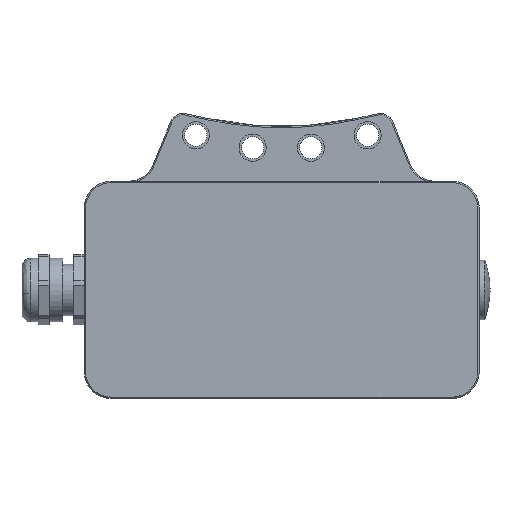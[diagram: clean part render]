
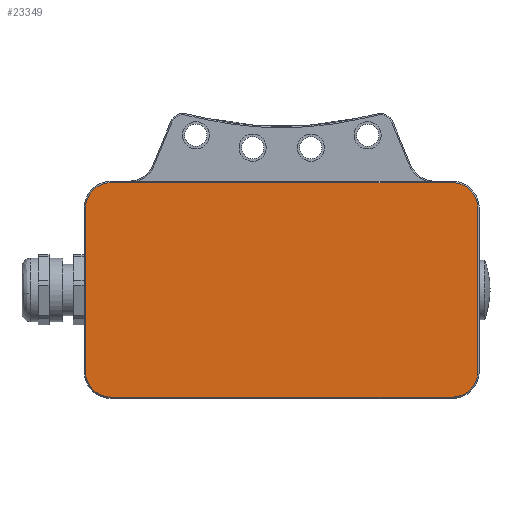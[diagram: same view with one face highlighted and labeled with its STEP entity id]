
A CAD part, front view. The second image highlights one B-rep face of the part: STEP entity #23349.
In plain terms, the highlighted planar face has unit normal (0, -1, 0).
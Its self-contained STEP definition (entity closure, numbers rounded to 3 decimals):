
#592 = VECTOR ( 'NONE', #43818, 1000. ) ;
#1130 = CARTESIAN_POINT ( 'NONE',  ( 48., -5., -39.65 ) ) ;
#1774 = EDGE_LOOP ( 'NONE', ( #65555, #4846, #26101, #59280, #41120, #68889, #40589, #21770 ) ) ;
#4125 = DIRECTION ( 'NONE',  ( 0., 0., 1. ) ) ;
#4759 = CARTESIAN_POINT ( 'NONE',  ( -78., -5., -39.65 ) ) ;
#4846 = ORIENTED_EDGE ( 'NONE', *, *, #73538, .T. ) ;
#6059 = VECTOR ( 'NONE', #19057, 1000. ) ;
#6248 = VERTEX_POINT ( 'NONE', #33968 ) ;
#7137 = CARTESIAN_POINT ( 'NONE',  ( -78., -5., 39.65 ) ) ;
#7794 = VECTOR ( 'NONE', #4125, 1000. ) ;
#8057 = DIRECTION ( 'NONE',  ( 0., 0., 1. ) ) ;
#8631 = DIRECTION ( 'NONE',  ( 0., -1., 0. ) ) ;
#8828 = VERTEX_POINT ( 'NONE', #18151 ) ;
#10729 = CIRCLE ( 'NONE', #73446, 9.5 ) ;
#10868 = EDGE_CURVE ( 'NONE', #56194, #34328, #10729, .T. ) ;
#11927 = CIRCLE ( 'NONE', #12710, 9.5 ) ;
#12230 = CARTESIAN_POINT ( 'NONE',  ( 57.5, -5., 30.15 ) ) ;
#12421 = VERTEX_POINT ( 'NONE', #12230 ) ;
#12654 = EDGE_CURVE ( 'NONE', #18496, #70483, #11927, .T. ) ;
#12710 = AXIS2_PLACEMENT_3D ( 'NONE', #31966, #60990, #20957 ) ;
#14098 = LINE ( 'NONE', #42608, #6059 ) ;
#14907 = AXIS2_PLACEMENT_3D ( 'NONE', #71939, #8631, #26868 ) ;
#16662 = CIRCLE ( 'NONE', #19180, 9.5 ) ;
#18151 = CARTESIAN_POINT ( 'NONE',  ( -87.5, -5., -30.15 ) ) ;
#18496 = VERTEX_POINT ( 'NONE', #7137 ) ;
#19057 = DIRECTION ( 'NONE',  ( 0., 0., -1. ) ) ;
#19180 = AXIS2_PLACEMENT_3D ( 'NONE', #59775, #48772, #43755 ) ;
#19953 = LINE ( 'NONE', #38205, #41458 ) ;
#20957 = DIRECTION ( 'NONE',  ( 0., 0., 1. ) ) ;
#21760 = DIRECTION ( 'NONE',  ( 0., -1., 0. ) ) ;
#21770 = ORIENTED_EDGE ( 'NONE', *, *, #45599, .T. ) ;
#23349 = ADVANCED_FACE ( 'NONE', ( #43477 ), #31885, .T. ) ;
#25995 = CIRCLE ( 'NONE', #43021, 9.5 ) ;
#26101 = ORIENTED_EDGE ( 'NONE', *, *, #36909, .T. ) ;
#26868 = DIRECTION ( 'NONE',  ( 0., 0., -1. ) ) ;
#31885 = PLANE ( 'NONE',  #14907 ) ;
#31898 = CARTESIAN_POINT ( 'NONE',  ( 57.5, -5., 0. ) ) ;
#31966 = CARTESIAN_POINT ( 'NONE',  ( -78., -5., 30.15 ) ) ;
#32451 = DIRECTION ( 'NONE',  ( 1., 0., 0. ) ) ;
#33968 = CARTESIAN_POINT ( 'NONE',  ( 48., -5., 39.65 ) ) ;
#34328 = VERTEX_POINT ( 'NONE', #60291 ) ;
#35608 = LINE ( 'NONE', #31898, #7794 ) ;
#36590 = CARTESIAN_POINT ( 'NONE',  ( 48., -5., 30.15 ) ) ;
#36909 = EDGE_CURVE ( 'NONE', #12421, #6248, #25995, .T. ) ;
#38205 = CARTESIAN_POINT ( 'NONE',  ( 0., -5., -39.65 ) ) ;
#39375 = EDGE_CURVE ( 'NONE', #8828, #65503, #16662, .T. ) ;
#40589 = ORIENTED_EDGE ( 'NONE', *, *, #39375, .T. ) ;
#41120 = ORIENTED_EDGE ( 'NONE', *, *, #12654, .T. ) ;
#41458 = VECTOR ( 'NONE', #32451, 1000. ) ;
#42379 = DIRECTION ( 'NONE',  ( 0., -1., 0. ) ) ;
#42608 = CARTESIAN_POINT ( 'NONE',  ( -87.5, -5., 0. ) ) ;
#43021 = AXIS2_PLACEMENT_3D ( 'NONE', #36590, #42379, #8057 ) ;
#43477 = FACE_OUTER_BOUND ( 'NONE', #1774, .T. ) ;
#43755 = DIRECTION ( 'NONE',  ( 0., 0., 1. ) ) ;
#43818 = DIRECTION ( 'NONE',  ( -1., 0., 0. ) ) ;
#44537 = DIRECTION ( 'NONE',  ( -1., 0., 0. ) ) ;
#45026 = CARTESIAN_POINT ( 'NONE',  ( 48., -5., -30.15 ) ) ;
#45599 = EDGE_CURVE ( 'NONE', #65503, #56194, #19953, .T. ) ;
#47091 = LINE ( 'NONE', #66811, #592 ) ;
#48772 = DIRECTION ( 'NONE',  ( 0., -1., 0. ) ) ;
#56194 = VERTEX_POINT ( 'NONE', #1130 ) ;
#59280 = ORIENTED_EDGE ( 'NONE', *, *, #68962, .T. ) ;
#59775 = CARTESIAN_POINT ( 'NONE',  ( -78., -5., -30.15 ) ) ;
#60291 = CARTESIAN_POINT ( 'NONE',  ( 57.5, -5., -30.15 ) ) ;
#60990 = DIRECTION ( 'NONE',  ( 0., -1., 0. ) ) ;
#65285 = EDGE_CURVE ( 'NONE', #70483, #8828, #14098, .T. ) ;
#65503 = VERTEX_POINT ( 'NONE', #4759 ) ;
#65555 = ORIENTED_EDGE ( 'NONE', *, *, #10868, .T. ) ;
#66811 = CARTESIAN_POINT ( 'NONE',  ( 0., -5., 39.65 ) ) ;
#68889 = ORIENTED_EDGE ( 'NONE', *, *, #65285, .T. ) ;
#68962 = EDGE_CURVE ( 'NONE', #6248, #18496, #47091, .T. ) ;
#70483 = VERTEX_POINT ( 'NONE', #73975 ) ;
#71939 = CARTESIAN_POINT ( 'NONE',  ( 0., -5., 0. ) ) ;
#73446 = AXIS2_PLACEMENT_3D ( 'NONE', #45026, #21760, #44537 ) ;
#73538 = EDGE_CURVE ( 'NONE', #34328, #12421, #35608, .T. ) ;
#73975 = CARTESIAN_POINT ( 'NONE',  ( -87.5, -5., 30.15 ) ) ;
